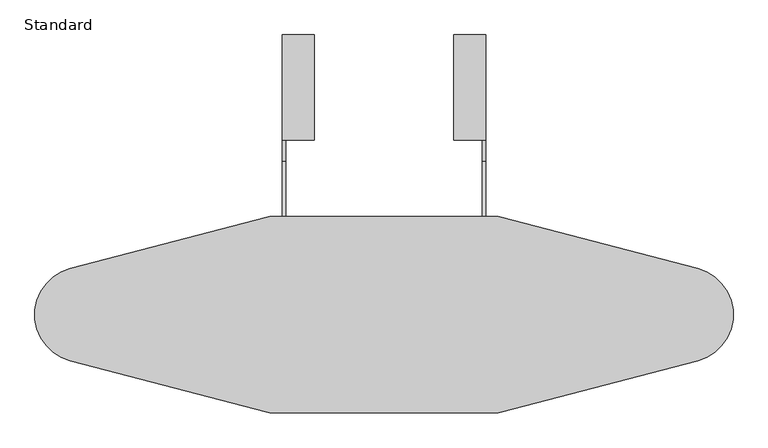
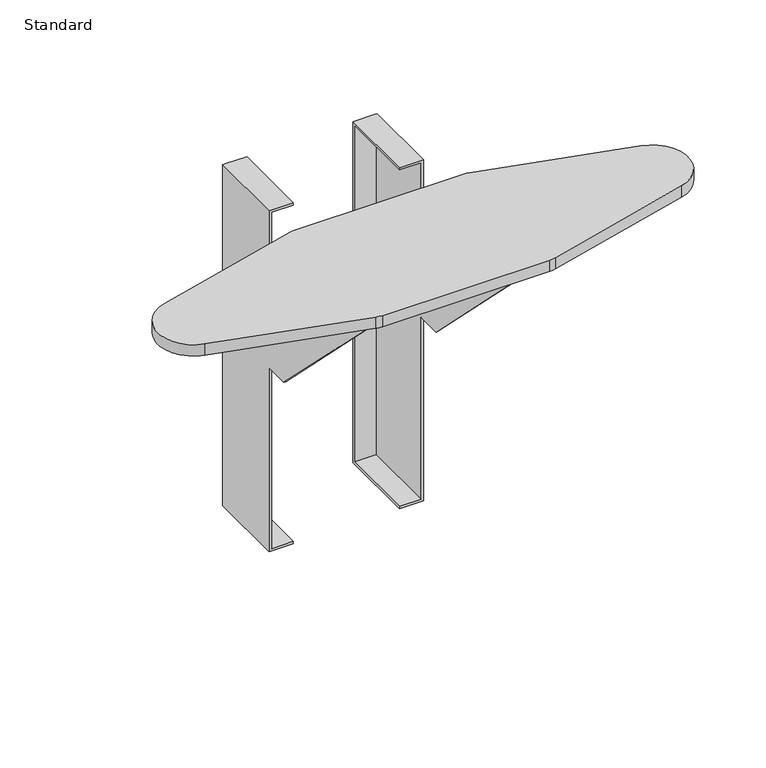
"""IFC4 building model written with IfcOpenShell, lengths in millimetres: furniture geometry, X_Locker-Duracube-Fixed Ironing Kitset : Standard."""

from ifc_helpers import new_model, si_unit, point, frame_2d, origin, origin_with_axes, place, context, project, spatial, polyline, circle_curve, trimmed, segment, composite_curve, outline, extrude, faceted_brep, source, transform, mapped, element, save


def standard_c9a665b5(model_context):
    return source(origin(), model_context, "Body", "SolidModel", [
        faceted_brep([(204.7003264, 286.0, -758.0), (204.7003264, 286.0, -11.0), (204.7003264, 120.0, -11.0), (204.7003264, 120.0, -146.0), (204.7003264, 87.0, -146.0), (204.7003264, -48.0, -11.0), (204.7003264, -48.0, 0.0), (204.7003264, -258.0, 0.0), (204.7003264, -258.0, -30.0), (204.7003264, 67.0, -355.0), (204.7003264, 120.0, -355.0), (204.7003264, 120.0, -758.0), (154.7003264, 286.0, -758.0), (154.7003264, 120.0, -758.0), (154.7003264, 120.0, -753.0), (154.7003264, 281.0, -753.0), (154.7003264, 281.0, -16.0), (154.7003264, 120.0, -16.0), (154.7003264, 120.0, -11.0), (154.7003264, 286.0, -11.0), (154.7003264, -258.0, 0.0), (154.7003264, -48.0, 0.0), (154.7003264, -48.0, -5.0), (154.7003264, -258.0, -5.0), (199.7003264, 286.0, -758.0), (199.7003264, 286.0, -11.0), (199.7003264, 120.0, -16.0), (199.7003264, 120.0, -146.0), (199.7003264, 281.0, -16.0), (199.7003264, 281.0, -753.0), (199.7003264, 120.0, -753.0), (199.7003264, 120.0, -355.0), (199.7003264, -258.0, -5.0), (199.7003264, -258.0, -30.0), (199.7003264, -48.0, -5.0), (199.7003264, -48.0, -11.0), (199.7003264, 67.0, -355.0), (199.7003264, 87.0, -146.0)], [[[0, 1, 2, 3, 4, 5, 6, 7, 8, 9, 10, 11]], [[12, 13, 14, 15, 16, 17, 18, 19]], [[20, 21, 22, 23]], [[1, 0, 24, 12, 19, 25]], [[18, 2, 1, 25, 19]], [[3, 2, 18, 17, 26, 27]], [[17, 16, 28, 26]], [[16, 15, 29, 28]], [[15, 14, 30, 29]], [[11, 10, 31, 30, 14, 13]], [[0, 11, 13, 12, 24]], [[8, 7, 20, 23, 32, 33]], [[23, 22, 34, 32]], [[6, 5, 35, 34, 22, 21]], [[20, 7, 6, 21]], [[31, 36, 33, 32, 34, 35, 37, 27, 26, 28, 29, 30]], [[4, 3, 27, 37]], [[5, 4, 37, 35]], [[9, 8, 33, 36]], [[10, 9, 36, 31]]]),
        faceted_brep([(-65.2996736, 286.0, -758.0), (-65.2996736, 286.0, -11.0), (-65.2996736, 120.0, -11.0), (-65.2996736, 120.0, -16.0), (-65.2996736, 281.0, -16.0), (-65.2996736, 281.0, -753.0), (-65.2996736, 120.0, -753.0), (-65.2996736, 120.0, -758.0), (-65.2996736, -258.0, 0.0), (-65.2996736, -258.0, -5.0), (-65.2996736, -48.0, -5.0), (-65.2996736, -48.0, 0.0), (-115.2996736, 286.0, -758.0), (-115.2996736, 120.0, -758.0), (-115.2996736, 120.0, -355.0), (-115.2996736, 67.0, -355.0), (-115.2996736, -258.0, -30.0), (-115.2996736, -258.0, 0.0), (-115.2996736, -48.0, 0.0), (-115.2996736, -48.0, -11.0), (-115.2996736, 87.0, -146.0), (-115.2996736, 120.0, -146.0), (-115.2996736, 120.0, -11.0), (-115.2996736, 286.0, -11.0), (-110.2996736, 286.0, -758.0), (-110.2996736, 286.0, -11.0), (-110.2996736, 120.0, -146.0), (-110.2996736, 120.0, -16.0), (-110.2996736, 281.0, -16.0), (-110.2996736, 281.0, -753.0), (-110.2996736, 120.0, -753.0), (-110.2996736, 120.0, -355.0), (-110.2996736, -258.0, -30.0), (-110.2996736, -258.0, -5.0), (-110.2996736, -48.0, -5.0), (-110.2996736, -48.0, -11.0), (-110.2996736, 87.0, -146.0), (-110.2996736, 67.0, -355.0)], [[[0, 1, 2, 3, 4, 5, 6, 7]], [[8, 9, 10, 11]], [[12, 13, 14, 15, 16, 17, 18, 19, 20, 21, 22, 23]], [[1, 0, 24, 12, 23, 25]], [[22, 2, 1, 25, 23]], [[3, 2, 22, 21, 26, 27]], [[4, 3, 27, 28]], [[5, 4, 28, 29]], [[6, 5, 29, 30]], [[7, 6, 30, 31, 14, 13]], [[0, 7, 13, 12, 24]], [[9, 8, 17, 16, 32, 33]], [[10, 9, 33, 34]], [[11, 10, 34, 35, 19, 18]], [[17, 8, 11, 18]], [[26, 36, 35, 34, 33, 32, 37, 31, 30, 29, 28, 27]], [[36, 26, 21, 20]], [[35, 36, 20, 19]], [[37, 32, 16, 15]], [[31, 37, 15, 14]]]),
        extrude(outline(composite_curve([segment(polyline([(218.2455086, -310.0), (-128.8448558, -310.0)]), True, "CONTINUOUS"), segment(trimmed(circle_curve(frame_2d((-128.8448558, -260.0)), 50.0), [point((-128.8448558, -310.0))], [point((-141.542868, -308.3607329))], False, "CARTESIAN"), True, "CONTINUOUS"), segment(polyline([(-141.542868, -308.3607329), (-449.3466919, -227.5410993)]), True, "CONTINUOUS"), segment(trimmed(circle_curve(frame_2d((-430.2996736, -155.0)), 75.0), [point((-449.3466919, -227.5410993))], [point((-449.3466919, -82.4589007))], False, "CARTESIAN"), True, "CONTINUOUS"), segment(polyline([(-449.3466919, -82.4589007), (-141.542868, -1.6392671)]), True, "CONTINUOUS"), segment(trimmed(circle_curve(frame_2d((-128.8448558, -50.0)), 50.0), [point((-141.542868, -1.6392671))], [point((-128.8448558, 0.0))], False, "CARTESIAN"), True, "CONTINUOUS"), segment(polyline([(-128.8448558, 0.0), (218.2455086, 0.0)]), True, "CONTINUOUS"), segment(trimmed(circle_curve(frame_2d((218.2455086, -50.0)), 50.0), [point((218.2455086, 0.0))], [point((230.9435208, -1.6392671))], False, "CARTESIAN"), True, "CONTINUOUS"), segment(polyline([(230.9435208, -1.6392671), (538.7473447, -82.4589007)]), True, "CONTINUOUS"), segment(trimmed(circle_curve(frame_2d((519.7003264, -155.0)), 75.0), [point((538.7473447, -82.4589007))], [point((538.7473447, -227.5410993))], False, "CARTESIAN"), True, "CONTINUOUS"), segment(polyline([(538.7473447, -227.5410993), (230.9435208, -308.3607329)]), True, "CONTINUOUS"), segment(trimmed(circle_curve(frame_2d((218.2455086, -260.0)), 50.0), [point((230.9435208, -308.3607329))], [point((218.2455086, -310.0))], False, "CARTESIAN"), True, "CONTINUOUS")], self_intersect=False)), origin_with_axes(), (0.0, 0.0, 1.0), 25.0),
    ])


if __name__ == "__main__":
    model = new_model("IFC4")
    model_context = context("Model", 3, world=origin())
    ifc_project = project(units=[si_unit("LENGTHUNIT", "METRE", prefix="MILLI")], contexts=[model_context])
    site = spatial("IfcSite", under=ifc_project)
    building = spatial("IfcBuilding", under=site)
    placement = place(None, origin())
    standard_shape = standard_c9a665b5(model_context)
    element("IfcFurniture", 1, ObjectType="X_Locker-Duracube-Fixed Ironing Kitset : Standard", at=placement, inside=building, context=model_context, shape_type="MappedRepresentation", body=[
        mapped(standard_shape, transform((0.0, 0.0, 0.0), x_axis=(1.0, 0.0, 0.0), y_axis=(0.0, 1.0, 0.0), z_axis=(0.0, 0.0, 1.0))),
    ])
    save(model, "model.ifc")
